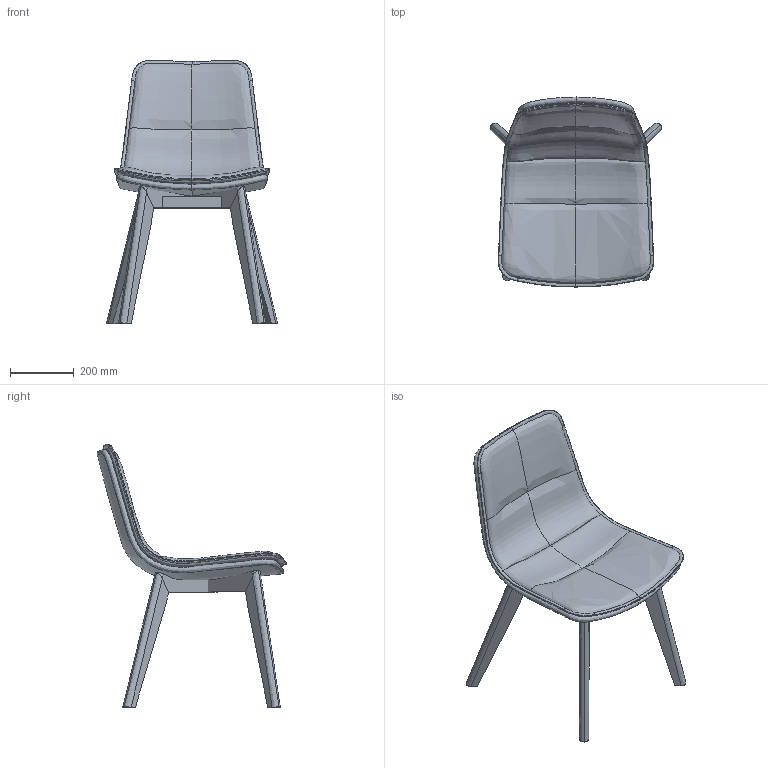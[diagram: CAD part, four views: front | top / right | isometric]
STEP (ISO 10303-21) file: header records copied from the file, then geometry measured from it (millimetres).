
FILE_DESCRIPTION(/* description */ (''),/* implementation_level */ '2;1');
FILE_NAME(/* name */ 'Edge ED 4201-06',/* time_stamp */ '2020-04-16T23:59:02+02:00',/* author */ (''),/* organization */ (''),/* preprocessor_version */ 'ST-DEVELOPER v16.5',/* originating_system */ '',/* authorisation */ '');
FILE_SCHEMA (('AUTOMOTIVE_DESIGN'));
Length unit declared in the file: millimetre
Products named in the file (1): Document
Bounding box: 535.5 x 594.56 x 825.25 mm (x, y, z)
Volume: 9457416.6 mm3; surface area: 1579923.6 mm2
Topology: 3 solids, 6 shells, 106 faces, 245 edges, 149 vertices
Faces by surface type: bspline 58, plane 48
Entity records: 8325 total; most frequent: CARTESIAN_POINT 6676, ORIENTED_EDGE 464, EDGE_CURVE 242, B_SPLINE_CURVE_WITH_KNOTS 229, VERTEX_POINT 143, ADVANCED_FACE 106, FACE_OUTER_BOUND 106, EDGE_LOOP 106
